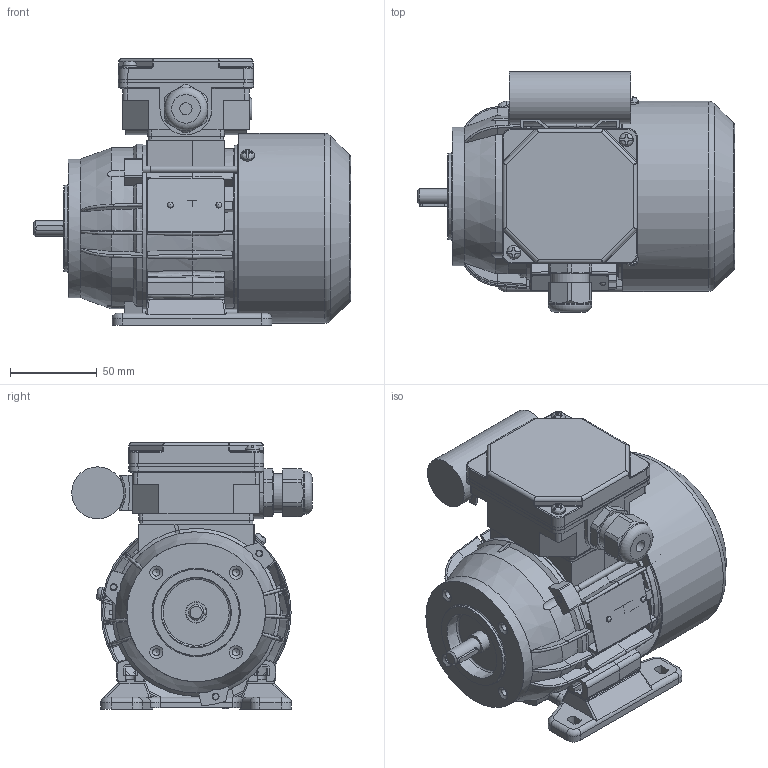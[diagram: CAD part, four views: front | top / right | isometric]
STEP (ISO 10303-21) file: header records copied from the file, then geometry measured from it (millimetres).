
FILE_DESCRIPTION( ( 'Unknown' ), '1' );
FILE_NAME( 'G:/Poczta Tk-1/STP/w.m.56/SEh56/SE(M)Lh56-A2.stp', 'Unknown', ( 'K. Szlosek' ), ( 'BESEL S.A.' ), 'PSStep 17.0.49', 'Unknown', ' ' );
FILE_SCHEMA( ( 'AUTOMOTIVE_DESIGN { 1 0 10303 214 1 1 1 1 }' ) );
Length unit declared in the file: millimetre
Products named in the file (32): Assem1; K4-2320 Uszczelka nr 1 Sh71,80; K3-9987 kadłub ze stojanem Sh56-B; K3-2193 Tarcza łożyskowa P Sg56-2..; K3-9990 wał Sh56-B; K2-0860 Pokrywka skrzynki zaciskowej; Wpust A3x3x16; K4-2820 Uszczelka nr 2 Sh71,80; Wkręt samogwintujący M4x8; Wkręt samogwintujący M4x16; K2-0879 Przewietrznik Sg56; Nitokołek A 2x6; K3-9440 Podstawa  skrzynki zaciskowej SEhR71-D; K4-0898 Tulejka uszczelniająca; K3-1974 Uchwyt kondensatora (mały); Kondensator bb 8uF; K1-0533 Tarcza kołnierzowa B14_2 SKg56-..2; K3-11363 Osłona przewietrznika Sh 56_A; K1-0484 Łapa Sg56-.. w. robocza; Śruba ściągająca E_M4x75; Tabliczka znamionowa 32x44; Łożysko 6201; Dławnica M20x1,5
Assembly tree (47 placements, depth 2):
  Assem1
    K4-2320 Uszczelka nr 1 Sh71,80
    K3-9987 kadłub ze stojanem Sh56-B
    K3-2193 Tarcza łożyskowa P Sg56-2..
    K3-9990 wał Sh56-B
    K2-0860 Pokrywka skrzynki zaciskowej
    Wpust A3x3x16
    K4-2820 Uszczelka nr 2 Sh71,80
    Wkręt samogwintujący M4x8  x3
    Wkręt samogwintujący M4x16  x2
    K2-0879 Przewietrznik Sg56
    Nitokołek A 2x6  x2
    K3-9440 Podstawa  skrzynki zaciskowej SEhR71-D
    K4-0898 Tulejka uszczelniająca
    K3-1974 Uchwyt kondensatora (mały)
    Kondensator bb 8uF
    K1-0533 Tarcza kołnierzowa B14_2 SKg56-..2
    K3-11363 Osłona przewietrznika Sh 56_A
    K1-0484 Łapa Sg56-.. w. robocza
    Śruba ściągająca E_M4x75  x3
    Tabliczka znamionowa 32x44
    Łożysko 6201  x2
    Łożysko 6201  x2
    Łożysko 6201  x2
    Łożysko 6201  x2
    Łożysko 6201  x2
    Łożysko 6201  x2
    Łożysko 6201  x2
    Łożysko 6201  x2
    Łożysko 6201  x2
    Łożysko 6201  x2
    Dławnica M20x1,5
Bounding box: 183 x 138.82 x 154 mm (x, y, z)
Volume: 497540.7 mm3; surface area: 319301.7 mm2
Topology: 47 solids, 63 shells, 1980 faces, 5361 edges, 3467 vertices
Faces by surface type: plane 1028, cylinder 580, cone 132, torus 112, bspline 94, sphere 34
Full cylindrical faces by diameter (mm): 2 x2, 2.4 x2, 3 x1, 3.242 x3, 3.5 x2, 3.7 x10, 4 x8, 4.134 x4, 4.5 x4, 4.6 x2, 4.8 x4, 5 x4, 5.8 x4, 6.5 x1, 7 x4, 8 x6, 9 x1, 10 x2, 10.9 x1, 11 x1, 11.5 x1, 11.8 x2, 12 x4, 12.4 x2, 15.5 x1, 16 x1, 16.1 x1, 17 x2, 18 x1, 18.38 x1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
Entity records: 80882 total; most frequent: CARTESIAN_POINT 21596, ORIENTED_EDGE 9312, DIRECTION 9282, EDGE_CURVE 4656, AXIS2_PLACEMENT_3D 3445, VERTEX_POINT 3152, LINE 2392, VECTOR 2392
